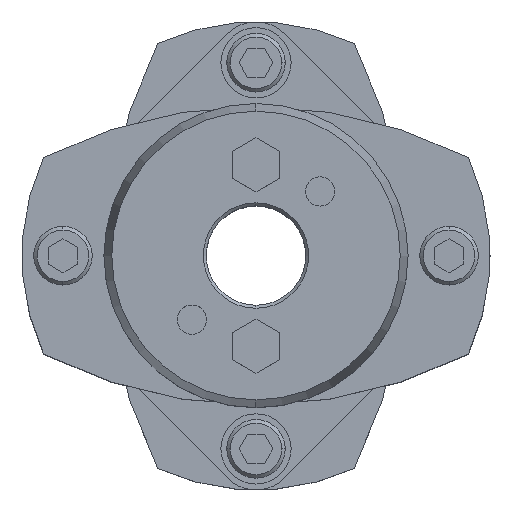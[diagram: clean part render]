
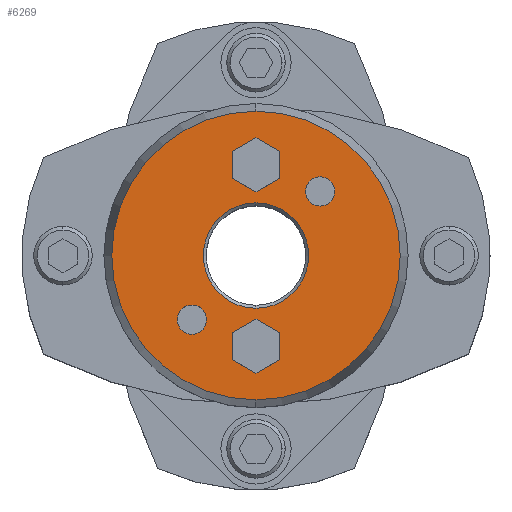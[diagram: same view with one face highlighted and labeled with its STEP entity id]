
A CAD part, top view. The second image highlights one B-rep face of the part: STEP entity #6269.
In plain terms, the highlighted planar face has unit normal (0, 0, 1).
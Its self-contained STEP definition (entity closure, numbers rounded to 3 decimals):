
#1677=CARTESIAN_POINT('',(0.,9.,45.25));
#1678=VERTEX_POINT('',#1677);
#1694=CARTESIAN_POINT('',(0.,-9.,45.25));
#1695=VERTEX_POINT('',#1694);
#1702=CARTESIAN_POINT('',(0.,0.,45.25));
#1703=DIRECTION('',(0.0,0.0,1.0));
#1704=DIRECTION('',(0.0,1.0,0.0));
#1705=AXIS2_PLACEMENT_3D('',#1702,#1703,#1704);
#1706=CIRCLE('',#1705,9.0);
#1707=EDGE_CURVE('',#1695,#1678,#1706,.T.);
#1865=CARTESIAN_POINT('',(0.,-24.66,45.25));
#1866=VERTEX_POINT('',#1865);
#1873=CARTESIAN_POINT('',(0.,24.66,45.25));
#1874=VERTEX_POINT('',#1873);
#1875=CARTESIAN_POINT('',(0.,0.,45.25));
#1876=DIRECTION('',(0.0,0.0,-1.0));
#1877=DIRECTION('',(0.0,-1.0,0.0));
#1878=AXIS2_PLACEMENT_3D('',#1875,#1876,#1877);
#1879=CIRCLE('',#1878,24.66);
#1880=EDGE_CURVE('',#1866,#1874,#1879,.T.);
#1975=CARTESIAN_POINT('',(10.96,13.46,45.25));
#1976=VERTEX_POINT('',#1975);
#1992=CARTESIAN_POINT('',(10.96,8.46,45.25));
#1993=VERTEX_POINT('',#1992);
#2000=CARTESIAN_POINT('',(10.96,10.96,45.25));
#2001=DIRECTION('',(0.0,0.0,-1.0));
#2002=DIRECTION('',(0.0,1.0,0.0));
#2003=AXIS2_PLACEMENT_3D('',#2000,#2001,#2002);
#2004=CIRCLE('',#2003,2.5);
#2005=EDGE_CURVE('',#1976,#1993,#2004,.T.);
#2017=CARTESIAN_POINT('',(-10.96,-8.46,45.25));
#2018=VERTEX_POINT('',#2017);
#2034=CARTESIAN_POINT('',(-10.96,-13.46,45.25));
#2035=VERTEX_POINT('',#2034);
#2042=CARTESIAN_POINT('',(-10.96,-10.96,45.25));
#2043=DIRECTION('',(0.0,0.0,-1.0));
#2044=DIRECTION('',(0.0,1.0,0.0));
#2045=AXIS2_PLACEMENT_3D('',#2042,#2043,#2044);
#2046=CIRCLE('',#2045,2.5);
#2047=EDGE_CURVE('',#2018,#2035,#2046,.T.);
#5513=CARTESIAN_POINT('',(0.,-10.881,45.25));
#5514=VERTEX_POINT('',#5513);
#5521=CARTESIAN_POINT('',(-4.,-13.191,45.25));
#5522=VERTEX_POINT('',#5521);
#5523=CARTESIAN_POINT('',(-4.,-13.191,45.25));
#5524=DIRECTION('',(0.866,0.5,0.0));
#5525=VECTOR('',#5524,4.619);
#5526=LINE('',#5523,#5525);
#5527=EDGE_CURVE('',#5522,#5514,#5526,.T.);
#5551=CARTESIAN_POINT('',(4.,-13.191,45.25));
#5552=VERTEX_POINT('',#5551);
#5559=CARTESIAN_POINT('',(0.,-10.881,45.25));
#5560=DIRECTION('',(0.866,-0.5,0.0));
#5561=VECTOR('',#5560,4.619);
#5562=LINE('',#5559,#5561);
#5563=EDGE_CURVE('',#5514,#5552,#5562,.T.);
#5582=CARTESIAN_POINT('',(4.,-17.809,45.25));
#5583=VERTEX_POINT('',#5582);
#5590=CARTESIAN_POINT('',(4.,-13.191,45.25));
#5591=DIRECTION('',(0.0,-1.0,0.0));
#5592=VECTOR('',#5591,4.619);
#5593=LINE('',#5590,#5592);
#5594=EDGE_CURVE('',#5552,#5583,#5593,.T.);
#5613=CARTESIAN_POINT('',(0.,-20.119,45.25));
#5614=VERTEX_POINT('',#5613);
#5621=CARTESIAN_POINT('',(4.,-17.809,45.25));
#5622=DIRECTION('',(-0.866,-0.5,0.0));
#5623=VECTOR('',#5622,4.619);
#5624=LINE('',#5621,#5623);
#5625=EDGE_CURVE('',#5583,#5614,#5624,.T.);
#5644=CARTESIAN_POINT('',(-4.,-17.809,45.25));
#5645=VERTEX_POINT('',#5644);
#5652=CARTESIAN_POINT('',(0.,-20.119,45.25));
#5653=DIRECTION('',(-0.866,0.5,0.0));
#5654=VECTOR('',#5653,4.619);
#5655=LINE('',#5652,#5654);
#5656=EDGE_CURVE('',#5614,#5645,#5655,.T.);
#5674=CARTESIAN_POINT('',(-4.,-17.809,45.25));
#5675=DIRECTION('',(0.0,1.0,0.0));
#5676=VECTOR('',#5675,4.619);
#5677=LINE('',#5674,#5676);
#5678=EDGE_CURVE('',#5645,#5522,#5677,.T.);
#5713=CARTESIAN_POINT('',(0.,20.119,45.25));
#5714=VERTEX_POINT('',#5713);
#5721=CARTESIAN_POINT('',(-4.,17.809,45.25));
#5722=VERTEX_POINT('',#5721);
#5723=CARTESIAN_POINT('',(-4.,17.809,45.25));
#5724=DIRECTION('',(0.866,0.5,0.0));
#5725=VECTOR('',#5724,4.619);
#5726=LINE('',#5723,#5725);
#5727=EDGE_CURVE('',#5722,#5714,#5726,.T.);
#5751=CARTESIAN_POINT('',(4.,17.809,45.25));
#5752=VERTEX_POINT('',#5751);
#5759=CARTESIAN_POINT('',(0.,20.119,45.25));
#5760=DIRECTION('',(0.866,-0.5,0.0));
#5761=VECTOR('',#5760,4.619);
#5762=LINE('',#5759,#5761);
#5763=EDGE_CURVE('',#5714,#5752,#5762,.T.);
#5782=CARTESIAN_POINT('',(4.,13.191,45.25));
#5783=VERTEX_POINT('',#5782);
#5790=CARTESIAN_POINT('',(4.,17.809,45.25));
#5791=DIRECTION('',(0.0,-1.0,0.0));
#5792=VECTOR('',#5791,4.619);
#5793=LINE('',#5790,#5792);
#5794=EDGE_CURVE('',#5752,#5783,#5793,.T.);
#5813=CARTESIAN_POINT('',(0.,10.881,45.25));
#5814=VERTEX_POINT('',#5813);
#5821=CARTESIAN_POINT('',(4.,13.191,45.25));
#5822=DIRECTION('',(-0.866,-0.5,0.0));
#5823=VECTOR('',#5822,4.619);
#5824=LINE('',#5821,#5823);
#5825=EDGE_CURVE('',#5783,#5814,#5824,.T.);
#5844=CARTESIAN_POINT('',(-4.,13.191,45.25));
#5845=VERTEX_POINT('',#5844);
#5852=CARTESIAN_POINT('',(0.,10.881,45.25));
#5853=DIRECTION('',(-0.866,0.5,0.0));
#5854=VECTOR('',#5853,4.619);
#5855=LINE('',#5852,#5854);
#5856=EDGE_CURVE('',#5814,#5845,#5855,.T.);
#5874=CARTESIAN_POINT('',(-4.,13.191,45.25));
#5875=DIRECTION('',(0.0,1.0,0.0));
#5876=VECTOR('',#5875,4.619);
#5877=LINE('',#5874,#5876);
#5878=EDGE_CURVE('',#5845,#5722,#5877,.T.);
#5904=CARTESIAN_POINT('',(-10.96,-10.96,45.25));
#5905=DIRECTION('',(0.0,0.0,-1.0));
#5906=DIRECTION('',(0.0,1.0,0.0));
#5907=AXIS2_PLACEMENT_3D('',#5904,#5905,#5906);
#5908=CIRCLE('',#5907,2.5);
#5909=EDGE_CURVE('',#2035,#2018,#5908,.T.);
#5938=CARTESIAN_POINT('',(10.96,10.96,45.25));
#5939=DIRECTION('',(0.0,0.0,-1.0));
#5940=DIRECTION('',(0.0,1.0,0.0));
#5941=AXIS2_PLACEMENT_3D('',#5938,#5939,#5940);
#5942=CIRCLE('',#5941,2.5);
#5943=EDGE_CURVE('',#1993,#1976,#5942,.T.);
#6216=CARTESIAN_POINT('',(0.,0.,45.25));
#6217=DIRECTION('',(0.0,0.0,-1.0));
#6218=DIRECTION('',(0.0,-1.0,0.0));
#6219=AXIS2_PLACEMENT_3D('',#6216,#6217,#6218);
#6220=CIRCLE('',#6219,24.66);
#6221=EDGE_CURVE('',#1874,#1866,#6220,.T.);
#6226=CARTESIAN_POINT('',(0.,2.364,45.25));
#6227=DIRECTION('',(0.0,0.0,1.0));
#6228=DIRECTION('',(0.0,1.0,0.0));
#6229=AXIS2_PLACEMENT_3D('',#6226,#6227,#6228);
#6230=PLANE('',#6229);
#6231=ORIENTED_EDGE('',*,*,#6221,.F.);
#6232=ORIENTED_EDGE('',*,*,#1880,.F.);
#6233=EDGE_LOOP('',(#6231,#6232));
#6234=FACE_OUTER_BOUND('',#6233,.T.);
#6235=ORIENTED_EDGE('',*,*,#5527,.T.);
#6236=ORIENTED_EDGE('',*,*,#5563,.T.);
#6237=ORIENTED_EDGE('',*,*,#5594,.T.);
#6238=ORIENTED_EDGE('',*,*,#5625,.T.);
#6239=ORIENTED_EDGE('',*,*,#5656,.T.);
#6240=ORIENTED_EDGE('',*,*,#5678,.T.);
#6241=EDGE_LOOP('',(#6235,#6236,#6237,#6238,#6239,#6240));
#6242=FACE_BOUND('',#6241,.T.);
#6243=ORIENTED_EDGE('',*,*,#5727,.T.);
#6244=ORIENTED_EDGE('',*,*,#5763,.T.);
#6245=ORIENTED_EDGE('',*,*,#5794,.T.);
#6246=ORIENTED_EDGE('',*,*,#5825,.T.);
#6247=ORIENTED_EDGE('',*,*,#5856,.T.);
#6248=ORIENTED_EDGE('',*,*,#5878,.T.);
#6249=EDGE_LOOP('',(#6243,#6244,#6245,#6246,#6247,#6248));
#6250=FACE_BOUND('',#6249,.T.);
#6251=ORIENTED_EDGE('',*,*,#2047,.T.);
#6252=ORIENTED_EDGE('',*,*,#5909,.T.);
#6253=EDGE_LOOP('',(#6251,#6252));
#6254=FACE_BOUND('',#6253,.T.);
#6255=ORIENTED_EDGE('',*,*,#2005,.T.);
#6256=ORIENTED_EDGE('',*,*,#5943,.T.);
#6257=EDGE_LOOP('',(#6255,#6256));
#6258=FACE_BOUND('',#6257,.T.);
#6259=ORIENTED_EDGE('',*,*,#1707,.F.);
#6260=CARTESIAN_POINT('',(0.,0.,45.25));
#6261=DIRECTION('',(0.0,0.0,1.0));
#6262=DIRECTION('',(0.0,1.0,0.0));
#6263=AXIS2_PLACEMENT_3D('',#6260,#6261,#6262);
#6264=CIRCLE('',#6263,9.0);
#6265=EDGE_CURVE('',#1678,#1695,#6264,.T.);
#6266=ORIENTED_EDGE('',*,*,#6265,.F.);
#6267=EDGE_LOOP('',(#6259,#6266));
#6268=FACE_BOUND('',#6267,.T.);
#6269=ADVANCED_FACE('',(#6234,#6242,#6250,#6254,#6258,#6268),#6230,.T.);
